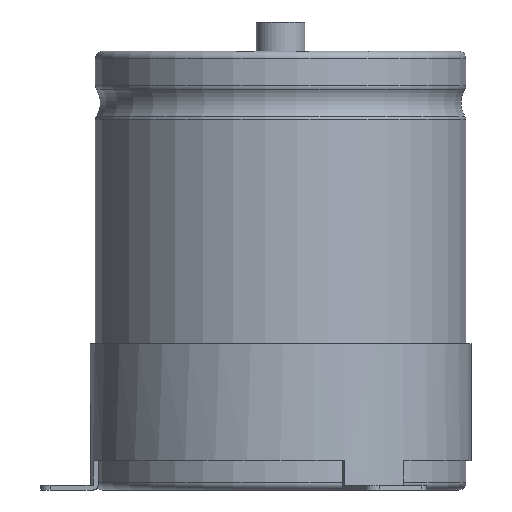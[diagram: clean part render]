
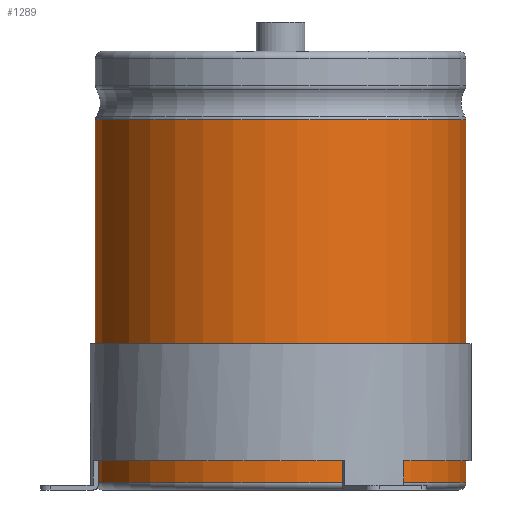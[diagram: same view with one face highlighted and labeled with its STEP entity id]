
A CAD part, front view. The second image highlights one B-rep face of the part: STEP entity #1289.
In plain terms, the highlighted cylindrical face has radius 38.1 mm (diameter 76.2 mm), a partial arc.
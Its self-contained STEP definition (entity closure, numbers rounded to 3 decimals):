
#233=LINE('',#6601,#447);
#234=LINE('',#6605,#448);
#447=VECTOR('',#5224,1.);
#448=VECTOR('',#5227,1.);
#695=FACE_OUTER_BOUND('',#1741,.T.);
#1289=ADVANCED_FACE('',(#695),#1519,.T.);
#1519=CYLINDRICAL_SURFACE('',#4585,38.1);
#1741=EDGE_LOOP('',(#2147,#2148,#2149,#2150));
#2147=ORIENTED_EDGE('',*,*,#3702,.T.);
#2148=ORIENTED_EDGE('',*,*,#3703,.T.);
#2149=ORIENTED_EDGE('',*,*,#3704,.F.);
#2150=ORIENTED_EDGE('',*,*,#3705,.F.);
#3274=VERTEX_POINT('',#6594);
#3276=VERTEX_POINT('',#6598);
#3277=VERTEX_POINT('',#6602);
#3278=VERTEX_POINT('',#6604);
#3702=EDGE_CURVE('',#3274,#3276,#4267,.T.);
#3703=EDGE_CURVE('',#3276,#3277,#233,.T.);
#3704=EDGE_CURVE('',#3278,#3277,#4268,.T.);
#3705=EDGE_CURVE('',#3274,#3278,#234,.T.);
#4267=CIRCLE('',#4582,38.1);
#4268=CIRCLE('',#4584,38.1);
#4582=AXIS2_PLACEMENT_3D('',#6599,#5220,#5221);
#4584=AXIS2_PLACEMENT_3D('',#6603,#5225,#5226);
#4585=AXIS2_PLACEMENT_3D('',#6606,#5228,#5229);
#5220=DIRECTION('',(0.,0.,-1.));
#5221=DIRECTION('',(0.,1.,0.));
#5224=DIRECTION('',(0.,0.,-1.));
#5225=DIRECTION('',(0.,0.,-1.));
#5226=DIRECTION('',(0.,1.,0.));
#5227=DIRECTION('',(0.,0.,-1.));
#5228=DIRECTION('',(0.,0.,-1.));
#5229=DIRECTION('',(0.,1.,0.));
#6594=CARTESIAN_POINT('',(3.983,37.891,75.9));
#6598=CARTESIAN_POINT('',(-3.983,37.891,75.9));
#6599=CARTESIAN_POINT('',(0.,0.,75.9));
#6601=CARTESIAN_POINT('',(-3.983,37.891,75.9));
#6602=CARTESIAN_POINT('',(-3.983,37.891,1.5));
#6603=CARTESIAN_POINT('',(0.,0.,1.5));
#6604=CARTESIAN_POINT('',(3.983,37.891,1.5));
#6605=CARTESIAN_POINT('',(3.983,37.891,75.9));
#6606=CARTESIAN_POINT('',(0.,0.,0.));
